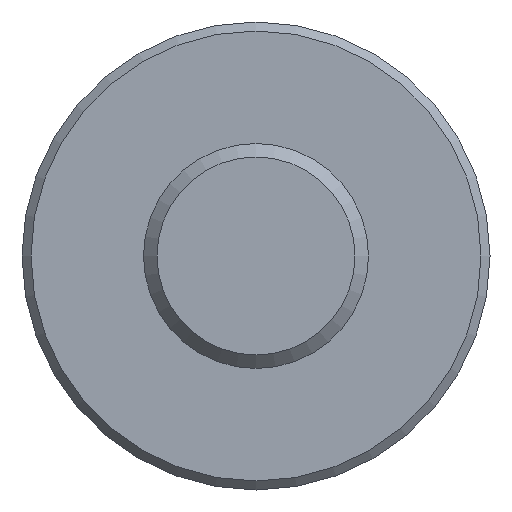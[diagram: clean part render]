
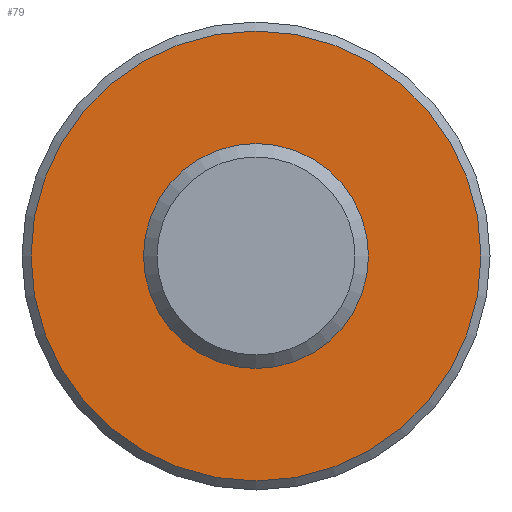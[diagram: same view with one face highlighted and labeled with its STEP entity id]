
A CAD part, front view. The second image highlights one B-rep face of the part: STEP entity #79.
In plain terms, the highlighted planar face has unit normal (0, -1, 0).
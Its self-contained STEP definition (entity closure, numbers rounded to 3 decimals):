
#25 = PLANE ( 'NONE',  #547 ) ;
#46 = DIRECTION ( 'NONE',  ( 0., 1., 0. ) ) ;
#78 = FACE_OUTER_BOUND ( 'NONE', #148, .T. ) ;
#79 = ADVANCED_FACE ( 'NONE', ( #78, #203 ), #25, .F. ) ;
#84 = DIRECTION ( 'NONE',  ( 0., -1., 0. ) ) ;
#85 = EDGE_LOOP ( 'NONE', ( #103 ) ) ;
#98 = VERTEX_POINT ( 'NONE', #434 ) ;
#103 = ORIENTED_EDGE ( 'NONE', *, *, #445, .F. ) ;
#116 = CARTESIAN_POINT ( 'NONE',  ( -2.6, 8.8, 0. ) ) ;
#148 = EDGE_LOOP ( 'NONE', ( #584 ) ) ;
#156 = EDGE_CURVE ( 'NONE', #214, #214, #533, .T. ) ;
#182 = DIRECTION ( 'NONE',  ( 0., 0., -1. ) ) ;
#187 = CARTESIAN_POINT ( 'NONE',  ( 0., 8.8, 0. ) ) ;
#203 = FACE_BOUND ( 'NONE', #85, .T. ) ;
#214 = VERTEX_POINT ( 'NONE', #387 ) ;
#322 = AXIS2_PLACEMENT_3D ( 'NONE', #187, #379, #182 ) ;
#331 = CIRCLE ( 'NONE', #322, 1.25 ) ;
#363 = CARTESIAN_POINT ( 'NONE',  ( 0., 8.8, 0. ) ) ;
#379 = DIRECTION ( 'NONE',  ( 0., -1., 0. ) ) ;
#387 = CARTESIAN_POINT ( 'NONE',  ( 0., 8.8, 2.5 ) ) ;
#434 = CARTESIAN_POINT ( 'NONE',  ( 0., 8.8, -1.25 ) ) ;
#445 = EDGE_CURVE ( 'NONE', #98, #98, #331, .T. ) ;
#502 = DIRECTION ( 'NONE',  ( 0., 0., 1. ) ) ;
#533 = CIRCLE ( 'NONE', #580, 2.5 ) ;
#547 = AXIS2_PLACEMENT_3D ( 'NONE', #116, #46, #502 ) ;
#551 = DIRECTION ( 'NONE',  ( 0., 0., 1. ) ) ;
#580 = AXIS2_PLACEMENT_3D ( 'NONE', #363, #84, #551 ) ;
#584 = ORIENTED_EDGE ( 'NONE', *, *, #156, .T. ) ;
